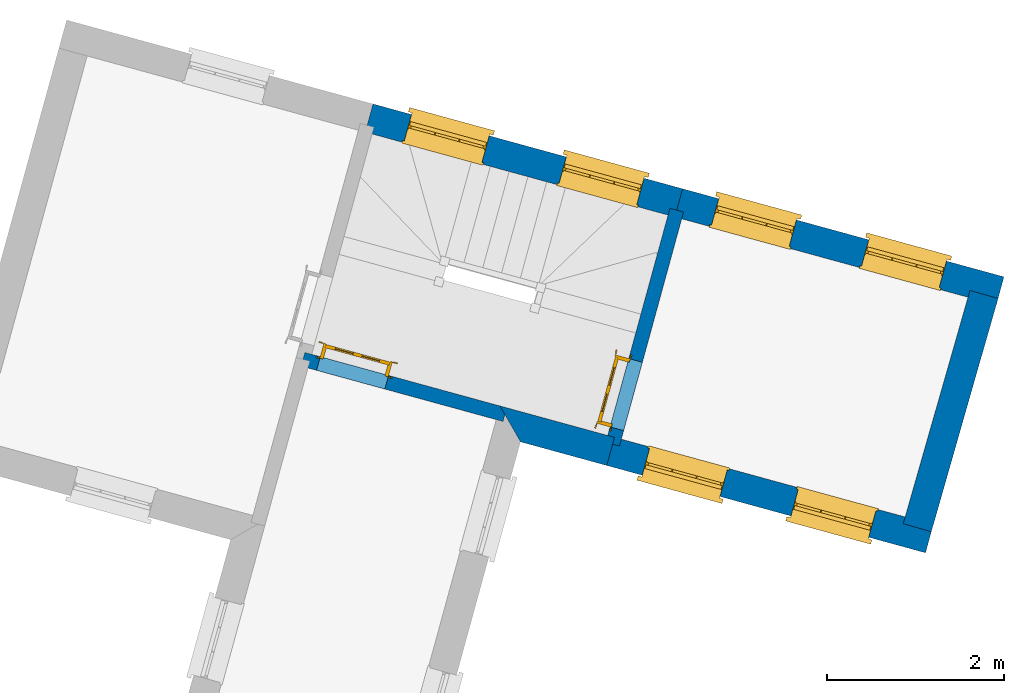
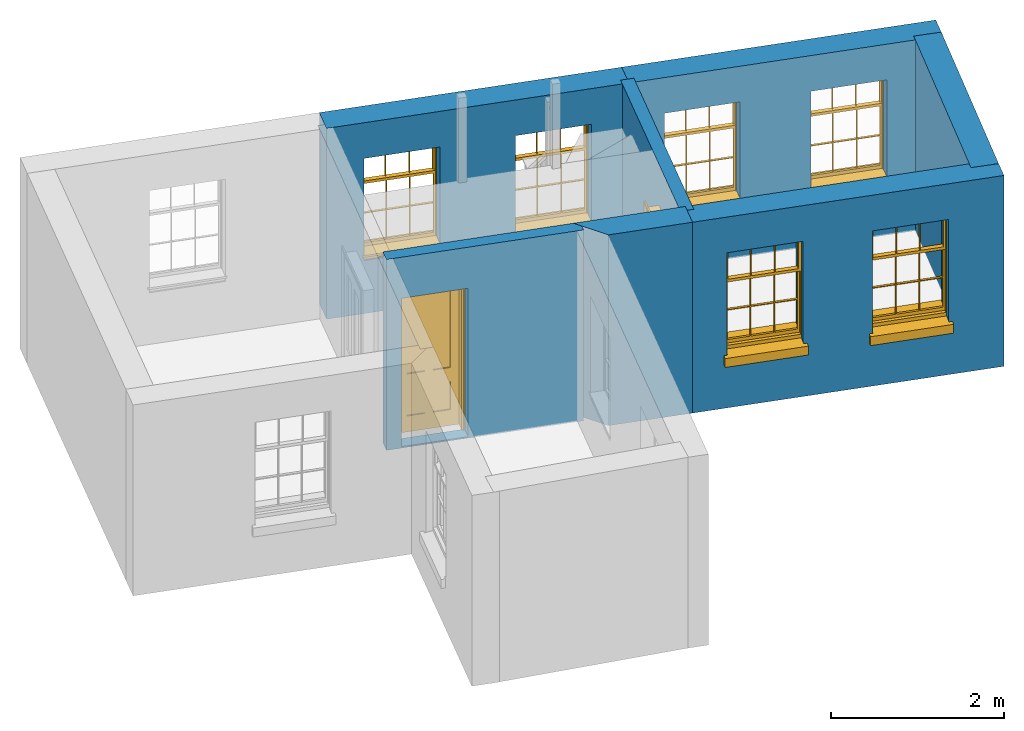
# One storey, part 2 of 4: 7 walls, 6 windows, 2 doors, 8 openings.
"""IFC4 building model written with IfcOpenShell, lengths in metres."""

from ifc_helpers import new_model, si_unit, frame, origin, origin_with_axes, place, context, subcontext, project, spatial, polyline, outline, extrude, faceted_brep, source, transform, mapped, material, layer, layer_set, layer_usage, type_object, type_shapes, element, fill, save


model = new_model("IFC4")

# Units and contexts
model_context = context("Model", 3, world=origin_with_axes())
body_context = subcontext(model_context, "Body", "Model", "MODEL_VIEW")
ifc_project = project(units=[si_unit("PLANEANGLEUNIT", "RADIAN"), si_unit("MASSUNIT", "GRAM", prefix="KILO"), si_unit("FORCEUNIT", "NEWTON", prefix="KILO"), si_unit("LENGTHUNIT", "METRE"), si_unit("AREAUNIT", "SQUARE_METRE"), si_unit("VOLUMEUNIT", "CUBIC_METRE")], contexts=[model_context, model_context])

# Sites, building, storey
site_1_placement = place(None, origin_with_axes())
site_1 = spatial("IfcSite", under=ifc_project, at=site_1_placement, Name="Tamar")
site_2_placement = place(site_1_placement, origin_with_axes())
site_2 = spatial("IfcSite", under=site_1, at=site_2_placement, Name="Site plot-29", CompositionType="ELEMENT")
building_placement = place(None, origin_with_axes())
building = spatial("IfcBuilding", under=site_2, at=building_placement, Name="Building plot-29", CompositionType="ELEMENT")
storey_placement = place(None, frame((0.0, 0.0, 27.85), z_axis=(0.0, 0.0, 1.0), x_axis=(1.0, 0.0, 0.0)))
storey = spatial("IfcBuildingStorey", under=building, at=storey_placement, Name="plot-29 1", CompositionType="ELEMENT", Elevation=27.85)

# Wall
ifc_material_1 = material(Name="Masonry")
ifc_layer_1 = layer(ifc_material_1, 0.33, ventilated=False)
ifc_layer_set_1 = layer_set([ifc_layer_1], Name="exterior_0.08_0.25")
ifc_layer_usage_1 = layer_usage(ifc_layer_set_1, "AXIS2", "POSITIVE", -0.25)
wall_type_1 = type_object("IfcWallType", Name="exterior_0.08_0.25", PredefinedType="SOLIDWALL", material=ifc_layer_set_1)
wall_1_placement = place(storey_placement, frame((275.841180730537, 261.90733006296, 0.0), z_axis=(0.0, 0.0, 1.0), x_axis=(0.964452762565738, -0.264255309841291, 0.0)))
element("IfcWall", 1, at=wall_1_placement, inside=storey, type_object=wall_type_1, material=ifc_layer_usage_1, Name="exterior", context=body_context, shape_type="SweptSolid", body=[
    extrude(outline(polyline([(-0.0799999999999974, 0.0800000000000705), (0.249999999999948, -0.249999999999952), (1.26011429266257, -0.250000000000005), (1.26011429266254, 0.0800000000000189), (-0.0799999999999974, 0.0800000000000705)])), origin_with_axes(), (0.0, 0.0, 1.0), 2.7),
])

# Wall, openings, windows
wall_2_placement = place(storey_placement, frame((277.056501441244, 261.574338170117, 0.0), z_axis=(0.0, 0.0, 1.0), x_axis=(0.964452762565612, -0.264255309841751, 0.0)))
wall_2 = element("IfcWall", 2, at=wall_2_placement, inside=storey, type_object=wall_type_1, material=ifc_layer_usage_1, Name="exterior", context=body_context, shape_type="SweptSolid", body=[
    extrude(outline(polyline([(-5.64477217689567e-14, 0.0800000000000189), (1.32070615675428e-13, -0.250000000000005), (3.7310994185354, -0.249999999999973), (3.7310994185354, 0.0799999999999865), (-5.64477217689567e-14, 0.0800000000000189)])), origin_with_axes(), (0.0, 0.0, 1.0), 2.7),
])
opening_1_placement = place(wall_2_placement, frame((0.415274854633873, 0.0, 0.75)))
opening_1 = element("IfcOpeningElement", 3, at=opening_1_placement, cuts=wall_2, Name="My Opening", ObjectType="Opening", context=body_context, shape_type="SweptSolid", body=[
    extrude(outline(polyline([(0.0, -0.269999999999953), (0.910000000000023, -0.269999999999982), (0.910000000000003, 1.1), (-1.9817480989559e-14, 1.10000000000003), (0.0, -0.269999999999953)])), origin_with_axes(), (0.0, 0.0, 1.0), 1.445),
])
opening_2_placement = place(wall_2_placement, frame((2.15582456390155, 0.0, 0.75)))
opening_2 = element("IfcOpeningElement", 4, at=opening_2_placement, cuts=wall_2, Name="My Opening", ObjectType="Opening", context=body_context, shape_type="SweptSolid", body=[
    extrude(outline(polyline([(0.0, -0.26999999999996), (0.910000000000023, -0.269999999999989), (0.910000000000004, 1.1), (-1.95399252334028e-14, 1.10000000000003), (0.0, -0.26999999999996)])), origin_with_axes(), (0.0, 0.0, 1.0), 1.445),
])
window_type = type_object("IfcWindowType", Name="sash_shorter", PartitioningType="DOUBLE_PANEL_HORIZONTAL", PredefinedType="NOTDEFINED")
shared_shape_1 = source(origin(), body_context, "Body", "Brep", [
    faceted_brep([(0.876875, 0.145, 0.999097), (0.876875, 0.145, 1.411875), (0.9, 0.145, 1.435), (0.033125, 0.145, 1.411875), (0.033125, 0.145, 0.999097), (0.01, 0.145, 1.435), (0.033125, 0.115, 1.411875), (0.01, 0.115, 1.435), (0.033125, 0.115, 0.999097), (0.876875, 0.115, 1.411875), (0.876875, 0.115, 0.999097), (0.9, 0.115, 1.435), (0.033125, 0.145, 0.960972), (0.01, 0.145, 0.960972), (0.033125, 0.145, 0.548195), (0.876875, 0.145, 0.960972), (0.876875, 0.145, 0.548195), (0.9, 0.145, 0.960972), (0.876875, 0.145, 0.538195), (0.876875, 0.145, 0.125417), (0.9, 0.145, 0.077167), (0.033125, 0.145, 0.125417), (0.033125, 0.145, 0.538195), (0.01, 0.145, 0.077167), (0.9, 0.115, 0.960972), (0.01, 0.115, 0.960972), (-0.0425, 0.0, 0.01), (-0.0425, -0.05, 0.001667), (0.0, 0.0, 0.01), (0.9525, 0.0, 0.01), (0.91, 0.0, 0.01), (0.9525, -0.05, 0.001667), (-0.02, 0.33, 0.077167), (0.0, 0.33, 0.077167), (-0.02, 0.36, 0.077167), (0.0, 0.19, 0.077167), (0.01, 0.19, 0.077167), (0.91, 0.19, 0.077167), (0.91, 0.33, 0.077167), (0.9, 0.19, 0.077167), (0.93, 0.33, 0.077167), (0.93, 0.36, 0.077167), (0.01, 0.145, 0.999097), (0.01, 0.175, 0.999097), (0.9, 0.145, 0.999097), (0.9, 0.175, 0.999097), (0.876875, 0.175, 0.125417), (0.876875, 0.175, 0.538195), (0.9, 0.175, 0.077167), (0.876875, 0.175, 0.548195), (0.876875, 0.175, 0.960972), (0.033125, 0.175, 0.125417), (0.01, 0.175, 0.077167), (0.033125, 0.175, 0.538195), (0.033125, 0.175, 0.960972), (0.033125, 0.175, 0.548195), (-0.02, 0.33, 0.052167), (-0.02, 0.36, 0.052167), (0.93, 0.36, 0.052167), (0.93, 0.33, 0.052167), (0.91, 0.33, 0.052167), (0.0, 0.33, 0.052167), (0.91, 0.1, 0.026667), (0.0, 0.1, 0.026667), (-0.0425, -0.05, -0.123333), (0.9525, -0.05, -0.123333), (-0.0425, 0.0, -0.123333), (0.9525, 0.0, -0.123333), (0.01, 0.19, 1.435), (0.9, 0.19, 1.435), (0.0, 0.19, 1.445), (0.91, 0.19, 1.445), (0.01, 0.1, 0.077167), (0.9, 0.1, 0.077167), (0.592292, 0.145, 0.125417), (0.592292, 0.175, 0.125417), (0.317708, 0.175, 0.125417), (0.317708, 0.145, 0.125417), (0.592292, 0.145, 0.548195), (0.317708, 0.145, 0.548195), (0.317708, 0.145, 0.538195), (0.592292, 0.145, 0.538195), (0.592292, 0.175, 0.548195), (0.317708, 0.175, 0.548195), (0.602292, 0.175, 0.548195), (0.602292, 0.145, 0.548195), (0.317708, 0.175, 0.538195), (0.307708, 0.175, 0.125417), (0.307708, 0.175, 0.538195), (0.602292, 0.175, 0.538195), (0.602292, 0.175, 0.125417), (0.592292, 0.175, 0.538195), (0.307708, 0.175, 0.548195), (0.317708, 0.175, 0.960972), (0.307708, 0.175, 0.960972), (0.602292, 0.175, 0.960972), (0.592292, 0.175, 0.960972), (0.307708, 0.145, 0.538195), (0.307708, 0.145, 0.125417), (0.307708, 0.145, 0.548195), (0.307708, 0.145, 0.960972), (0.592292, 0.145, 0.960972), (0.317708, 0.145, 0.960972), (0.602292, 0.145, 0.960972), (0.602292, 0.145, 0.538195), (0.602292, 0.145, 0.125417), (0.317708, 0.115, 1.411875), (0.307708, 0.115, 1.411875), (0.307708, 0.115, 0.999097), (0.317708, 0.115, 0.999097), (0.602292, 0.115, 1.411875), (0.592292, 0.115, 1.411875), (0.592292, 0.115, 0.999097), (0.602292, 0.115, 0.999097), (0.317708, 0.145, 0.999097), (0.307708, 0.145, 0.999097), (0.307708, 0.145, 1.411875), (0.317708, 0.145, 1.411875), (0.602292, 0.145, 0.999097), (0.592292, 0.145, 0.999097), (0.592292, 0.145, 1.411875), (0.602292, 0.145, 1.411875), (0.91, 0.1, 1.445), (0.9, 0.1, 1.435), (0.01, 0.1, 1.435), (0.0, 0.1, 1.445), (0.91, 0.0, 0.0), (0.0, 0.0, 0.0), (0.91, 0.33, 0.0), (0.0, 0.33, 0.0)], [[[0, 1, 2]], [[3, 4, 5]], [[6, 7, 8]], [[9, 10, 11]], [[12, 13, 14]], [[15, 16, 17]], [[18, 19, 20]], [[21, 22, 23]], [[24, 15, 17]], [[13, 12, 25]], [[26, 27, 28]], [[29, 30, 31]], [[32, 33, 34]], [[35, 36, 33]], [[37, 38, 39]], [[40, 41, 38]], [[42, 4, 43]], [[44, 45, 0]], [[46, 47, 48]], [[49, 50, 45]], [[51, 52, 53]], [[54, 55, 43]], [[38, 33, 36, 39]], [[41, 34, 33, 38]], [[56, 32, 34, 57]], [[57, 34, 41, 58]], [[58, 41, 40, 59]], [[57, 58, 60, 61]], [[52, 48, 39, 36]], [[62, 63, 28, 30]], [[27, 31, 30, 28]], [[27, 64, 65, 31]], [[66, 67, 65, 64]], [[2, 5, 68, 69]], [[68, 70, 71, 69]], [[20, 23, 72, 73]], [[73, 72, 63, 62]], [[74, 75, 76, 77]], [[78, 79, 80, 81]], [[78, 82, 83, 79]], [[16, 49, 84, 85]], [[86, 76, 87, 88]], [[89, 90, 75, 91]], [[92, 88, 53, 55]], [[82, 91, 86, 83]], [[93, 83, 92, 94]], [[95, 84, 82, 96]], [[89, 84, 49, 47]], [[97, 88, 87, 98]], [[22, 53, 88, 97]], [[81, 91, 75, 74]], [[80, 86, 91, 81]], [[77, 76, 86, 80]], [[99, 92, 55, 14]], [[100, 94, 92, 99]], [[101, 96, 82, 78]], [[79, 83, 93, 102]], [[85, 84, 95, 103]], [[104, 89, 47, 18]], [[105, 90, 89, 104]], [[104, 18, 16, 85]], [[80, 97, 98, 77]], [[104, 81, 74, 105]], [[103, 101, 78, 85]], [[99, 14, 22, 97]], [[102, 100, 99, 79]], [[106, 107, 108, 109]], [[110, 111, 112, 113]], [[114, 115, 116, 117]], [[118, 119, 120, 121]], [[107, 116, 115, 108]], [[111, 120, 119, 112]], [[109, 114, 117, 106]], [[113, 118, 121, 110]], [[85, 78, 81, 104]], [[84, 89, 91, 82]], [[83, 86, 88, 92]], [[79, 99, 97, 80]], [[109, 112, 119, 114]], [[102, 93, 96, 101]], [[106, 117, 120, 111]], [[98, 87, 51, 21]], [[6, 3, 116, 107]], [[110, 121, 1, 9]], [[19, 46, 90, 105]], [[26, 66, 64, 27]], [[29, 31, 65, 67]], [[25, 24, 112, 109]], [[11, 7, 106, 111]], [[75, 48, 52, 76]], [[43, 45, 96, 93]], [[45, 43, 114, 119]], [[5, 2, 120, 117]], [[24, 25, 102, 101]], [[42, 5, 4]], [[2, 44, 0]], [[49, 45, 48, 47]], [[52, 43, 55, 53]], [[14, 13, 23, 22]], [[20, 17, 16, 18]], [[24, 11, 10]], [[25, 8, 7]], [[8, 4, 3, 6]], [[9, 1, 0, 10]], [[15, 50, 49, 16]], [[18, 47, 46, 19]], [[21, 51, 53, 22]], [[14, 55, 54, 12]], [[44, 2, 69, 45]], [[68, 5, 42, 43]], [[36, 35, 70, 68]], [[39, 69, 71, 37]], [[62, 122, 123, 73]], [[63, 72, 124, 125]], [[8, 108, 115, 4]], [[113, 10, 0, 118]], [[94, 100, 12, 54]], [[17, 20, 73, 24]], [[72, 23, 13, 25]], [[52, 36, 68, 43]], [[69, 39, 48, 45]], [[11, 24, 73, 123]], [[7, 124, 72, 25]], [[23, 77, 98]], [[98, 21, 23]], [[105, 74, 20]], [[20, 19, 105]], [[20, 74, 77, 23]], [[113, 112, 24]], [[24, 10, 113]], [[25, 109, 108]], [[108, 8, 25]], [[110, 9, 11]], [[11, 111, 110]], [[7, 6, 107]], [[107, 106, 7]], [[5, 117, 116]], [[116, 3, 5]], [[121, 120, 2]], [[2, 1, 121]], [[11, 123, 124, 7]], [[122, 125, 124, 123]], [[43, 93, 94]], [[94, 54, 43]], [[96, 45, 95]], [[50, 95, 45]], [[15, 103, 95, 50]], [[48, 75, 90]], [[90, 46, 48]], [[87, 76, 52]], [[52, 51, 87]], [[103, 15, 24]], [[24, 101, 103]], [[100, 102, 25]], [[25, 12, 100]], [[115, 114, 43]], [[43, 4, 115]], [[118, 0, 45]], [[45, 119, 118]], [[71, 70, 125, 122]], [[70, 35, 63, 125]], [[122, 62, 37, 71]], [[126, 67, 66, 127]], [[60, 58, 59]], [[38, 60, 59, 40]], [[61, 56, 57]], [[32, 56, 61, 33]], [[61, 60, 128, 129]], [[62, 60, 38, 37]], [[126, 128, 60, 62]], [[33, 61, 63, 35]], [[61, 129, 127, 63]], [[128, 126, 127, 129]], [[28, 127, 66, 26]], [[63, 127, 28]], [[29, 67, 126, 30]], [[30, 126, 62]]]),
])
type_shapes(window_type, [shared_shape_1])
window_1_placement = place(storey_placement, frame((277.385665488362, 261.204197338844, 0.75), z_axis=(0.0, 0.0, 1.0), x_axis=(0.877652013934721, -0.240472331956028, 0.0)))
window_1 = element("IfcWindow", 5, at=window_1_placement, inside=storey, type_object=window_type, Name="toilet outside window", OverallHeight=1.445, OverallWidth=0.91, context=body_context, shape_type="MappedRepresentation", body=[
    mapped(shared_shape_1, transform((0.0, 0.0, 0.0), scale=1.0)),
])
fill(opening_1, window_1)
window_2_placement = place(storey_placement, frame((279.064343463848, 260.744247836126, 0.75), z_axis=(0.0, 0.0, 1.0), x_axis=(0.877652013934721, -0.240472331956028, 0.0)))
window_2 = element("IfcWindow", 6, at=window_2_placement, inside=storey, type_object=window_type, Name="toilet outside window", OverallHeight=1.445, OverallWidth=0.91, context=body_context, shape_type="MappedRepresentation", body=[
    mapped(shared_shape_1, transform((0.0, 0.0, 0.0), scale=1.0)),
])
fill(opening_2, window_2)

wall_3_placement = place(storey_placement, frame((281.167421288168, 263.288028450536, 0.0), z_axis=(0.0, 0.0, 1.0), x_axis=(-0.964452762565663, 0.264255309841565, 0.0)))
wall_3 = element("IfcWall", 7, at=wall_3_placement, inside=storey, type_object=wall_type_1, material=ifc_layer_usage_1, Name="exterior", context=body_context, shape_type="SweptSolid", body=[
    extrude(outline(polyline([(-0.249999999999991, 0.0799999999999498), (-0.249999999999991, -0.250000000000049), (3.51193624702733, -0.25000000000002), (3.51193624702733, 0.0799999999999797), (-0.249999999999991, 0.0799999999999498)])), origin_with_axes(), (0.0, 0.0, 1.0), 2.7),
])
opening_3_placement = place(wall_3_placement, frame((0.422984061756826, 0.0, 0.75)))
opening_3 = element("IfcOpeningElement", 8, at=opening_3_placement, cuts=wall_3, Name="My Opening", ObjectType="Opening", context=body_context, shape_type="SweptSolid", body=[
    extrude(outline(polyline([(0.0, -0.270000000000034), (0.909999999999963, -0.270000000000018), (0.910000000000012, 1.10000000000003), (4.95714580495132e-14, 1.10000000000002), (0.0, -0.270000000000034)])), origin_with_axes(), (0.0, 0.0, 1.0), 1.445),
])
opening_4_placement = place(wall_3_placement, frame((2.17895218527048, 0.0, 0.75)))
opening_4 = element("IfcOpeningElement", 9, at=opening_4_placement, cuts=wall_3, Name="My Opening", ObjectType="Opening", context=body_context, shape_type="SweptSolid", body=[
    extrude(outline(polyline([(0.0, -0.270000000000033), (0.909999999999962, -0.270000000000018), (0.910000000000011, 1.10000000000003), (4.88498130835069e-14, 1.10000000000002), (0.0, -0.270000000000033)])), origin_with_axes(), (0.0, 0.0, 1.0), 1.445),
])
window_3_placement = place(storey_placement, frame((280.830822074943, 263.660206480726, 0.75), z_axis=(0.0, 0.0, 1.0), x_axis=(-0.877652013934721, 0.2404723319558, 0.0)))
window_3 = element("IfcWindow", 10, at=window_3_placement, inside=storey, type_object=window_type, Name="toilet outside window", OverallHeight=1.445, OverallWidth=0.91, context=body_context, shape_type="MappedRepresentation", body=[
    mapped(shared_shape_1, transform((0.0, 0.0, 0.0), scale=1.0)),
])
fill(opening_3, window_3)
window_4_placement = place(storey_placement, frame((279.137273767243, 264.124230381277, 0.75), z_axis=(0.0, 0.0, 1.0), x_axis=(-0.877652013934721, 0.2404723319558, 0.0)))
window_4 = element("IfcWindow", 11, at=window_4_placement, inside=storey, type_object=window_type, Name="toilet outside window", OverallHeight=1.445, OverallWidth=0.91, context=body_context, shape_type="MappedRepresentation", body=[
    mapped(shared_shape_1, transform((0.0, 0.0, 0.0), scale=1.0)),
])
fill(opening_4, window_4)

wall_4_placement = place(storey_placement, frame((277.780324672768, 264.216076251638, 0.0), z_axis=(0.0, 0.0, 1.0), x_axis=(-0.964452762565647, 0.264255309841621, 0.0)))
wall_4 = element("IfcWall", 12, at=wall_4_placement, inside=storey, type_object=wall_type_1, material=ifc_layer_usage_1, Name="exterior", context=body_context, shape_type="SweptSolid", body=[
    extrude(outline(polyline([(2.41278244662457e-14, 0.0799999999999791), (4.37025841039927e-14, -0.25000000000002), (3.62381554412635, -0.249999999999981), (3.6238155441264, 0.0799999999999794), (2.41278244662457e-14, 0.0799999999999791)])), origin_with_axes(), (0.0, 0.0, 1.0), 2.7),
])
opening_5_placement = place(wall_4_placement, frame((0.45095388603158, 0.0, 0.75)))
opening_5 = element("IfcOpeningElement", 13, at=opening_5_placement, cuts=wall_4, Name="My Opening", ObjectType="Opening", context=body_context, shape_type="SweptSolid", body=[
    extrude(outline(polyline([(0.0, -0.270000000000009), (0.909999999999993, -0.27000000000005), (0.910000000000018, 1.10000000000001), (2.51465515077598e-14, 1.10000000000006), (0.0, -0.270000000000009)])), origin_with_axes(), (0.0, 0.0, 1.0), 1.445),
])
opening_6_placement = place(wall_4_placement, frame((2.26286165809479, 0.0, 0.75)))
opening_6 = element("IfcOpeningElement", 14, at=opening_6_placement, cuts=wall_4, Name="My Opening", ObjectType="Opening", context=body_context, shape_type="SweptSolid", body=[
    extrude(outline(polyline([(0.0, -0.270000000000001), (0.909999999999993, -0.270000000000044), (0.910000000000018, 1.10000000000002), (2.48689957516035e-14, 1.10000000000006), (0.0, -0.270000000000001)])), origin_with_axes(), (0.0, 0.0, 1.0), 1.445),
])
window_5_placement = place(storey_placement, frame((277.416749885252, 264.595645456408, 0.75), z_axis=(0.0, 0.0, 1.0), x_axis=(-0.877652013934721, 0.240472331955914, 0.0)))
window_5 = element("IfcWindow", 15, at=window_5_placement, inside=storey, type_object=window_type, Name="circulation outside window", OverallHeight=1.445, OverallWidth=0.91, context=body_context, shape_type="MappedRepresentation", body=[
    mapped(shared_shape_1, transform((0.0, 0.0, 0.0), scale=1.0)),
])
fill(opening_5, window_5)
window_6_placement = place(storey_placement, frame((275.669250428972, 265.074451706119, 0.75), z_axis=(0.0, 0.0, 1.0), x_axis=(-0.877652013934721, 0.240472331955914, 0.0)))
window_6 = element("IfcWindow", 16, at=window_6_placement, inside=storey, type_object=window_type, Name="circulation outside window", OverallHeight=1.445, OverallWidth=0.91, context=body_context, shape_type="MappedRepresentation", body=[
    mapped(shared_shape_1, transform((0.0, 0.0, 0.0), scale=1.0)),
])
fill(opening_6, window_6)

# Wall
ifc_material_2 = material(Name="Masonry")
ifc_layer_2 = layer(ifc_material_2, 0.33, ventilated=False)
ifc_layer_set_2 = layer_set([ifc_layer_2], Name="party_0.08_0.25")
ifc_layer_usage_2 = layer_usage(ifc_layer_set_2, "AXIS2", "POSITIVE", -0.25)
wall_type_2 = type_object("IfcWallType", Name="party_0.08_0.25", PredefinedType="SOLIDWALL", material=ifc_layer_set_2)
wall_5_placement = place(storey_placement, frame((280.413857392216, 260.654439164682, 0.0), z_axis=(0.0, 0.0, 1.0), x_axis=(0.275095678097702, 0.961416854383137, 0.0)))
element("IfcWall", 17, at=wall_5_placement, inside=storey, type_object=wall_type_2, material=ifc_layer_usage_2, Name="party", context=body_context, shape_type="SweptSolid", body=[
    extrude(outline(polyline([(7.11032594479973e-15, 0.080000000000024), (1.58359861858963e-14, -0.249999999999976), (2.73927929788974, -0.249999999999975), (2.73927929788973, 0.0800000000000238), (7.11032594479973e-15, 0.080000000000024)])), origin_with_axes(), (0.0, 0.0, 1.0), 2.7),
])

# Wall, opening, door
ifc_material_3 = material(Name="Masonry")
ifc_layer_3 = layer(ifc_material_3, 0.16, ventilated=False)
ifc_layer_set_3 = layer_set([ifc_layer_3], Name="interior_0.08_0.08")
ifc_layer_usage_3 = layer_usage(ifc_layer_set_3, "AXIS2", "POSITIVE", -0.08)
wall_type_3 = type_object("IfcWallType", Name="interior_0.08_0.08", PredefinedType="SOLIDWALL", material=ifc_layer_set_3)
wall_6_placement = place(storey_placement, frame((273.561502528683, 262.531950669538, 0.0), z_axis=(0.0, 0.0, 1.0), x_axis=(0.964452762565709, -0.264255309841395, 0.0)))
wall_6 = element("IfcWall", 18, at=wall_6_placement, inside=storey, type_object=wall_type_3, material=ifc_layer_usage_3, Name="interior", context=body_context, shape_type="SweptSolid", body=[
    extrude(outline(polyline([(-2.69246710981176e-14, 0.0800000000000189), (2.69148739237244e-14, -0.0800000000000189), (2.36370125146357, -0.0800000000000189), (2.36370125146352, 0.0800000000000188), (-2.69246710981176e-14, 0.0800000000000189)])), origin_with_axes(), (0.0, 0.0, 1.0), 2.7),
])
opening_7_placement = place(wall_6_placement, frame((0.180000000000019, 0.0, 0.0199999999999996)))
opening_7 = element("IfcOpeningElement", 19, at=opening_7_placement, cuts=wall_6, Name="My Opening", ObjectType="Opening", context=body_context, shape_type="SweptSolid", body=[
    extrude(outline(polyline([(0.0, -0.100000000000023), (0.80000000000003, -0.100000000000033), (0.79999999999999, 1.1), (-3.95239396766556e-14, 1.10000000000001), (0.0, -0.100000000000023)])), origin_with_axes(), (0.0, 0.0, 1.0), 2.1),
])
door_type = type_object("IfcDoorType", Name="door_inside", OperationType="SINGLE_SWING_LEFT", PredefinedType="NOTDEFINED")
shared_shape_2 = source(origin(), body_context, "Body", "Brep", [
    faceted_brep([(0.773, 0.33, 1.895), (0.66, 0.33, 1.895), (0.66, 0.33, 2.073), (0.773, 0.33, 2.073), (0.773, 0.33, 0.82), (0.66, 0.33, 0.82), (0.45, 0.33, 1.895), (0.45, 0.33, 2.073), (0.773, 0.33, 0.62), (0.66, 0.33, 0.62), (0.66, 0.315, 0.82), (0.66, 0.315, 1.895), (0.45, 0.315, 1.895), (0.35, 0.33, 1.895), (0.35, 0.33, 2.073), (0.773, 0.33, 0.225), (0.66, 0.33, 0.225), (0.45, 0.33, 0.62), (0.45, 0.33, 0.82), (0.45, 0.315, 0.82), (0.35, 0.33, 0.82), (0.14, 0.33, 2.073), (0.14, 0.33, 1.895), (0.773, 0.33, 0.0), (0.66, 0.33, 0.0), (0.66, 0.315, 0.225), (0.66, 0.315, 0.62), (0.45, 0.315, 0.62), (0.35, 0.33, 0.62), (0.35, 0.315, 0.82), (0.35, 0.315, 1.895), (0.14, 0.315, 1.895), (0.027, 0.33, 2.073), (0.027, 0.33, 1.895), (0.773, 0.292, 0.0), (0.66, 0.292, 0.0), (0.45, 0.33, 0.0), (0.45, 0.33, 0.225), (0.45, 0.315, 0.225), (0.35, 0.33, 0.225), (0.14, 0.33, 0.82), (0.14, 0.33, 0.62), (0.14, 0.315, 0.82), (0.027, 0.33, 0.82), (0.773, 0.292, 0.225), (0.66, 0.292, 0.225), (0.45, 0.292, 0.0), (0.35, 0.33, 0.0), (0.35, 0.315, 0.225), (0.35, 0.315, 0.62), (0.14, 0.315, 0.62), (0.027, 0.33, 0.62), (0.773, 0.292, 0.62), (0.66, 0.292, 0.62), (0.45, 0.292, 0.225), (0.35, 0.292, 0.0), (0.14, 0.33, 0.225), (0.14, 0.33, 0.0), (0.14, 0.315, 0.225), (0.027, 0.33, 0.225), (0.773, 0.292, 0.82), (0.66, 0.292, 0.82), (0.66, 0.307, 0.62), (0.66, 0.307, 0.225), (0.45, 0.307, 0.225), (0.35, 0.292, 0.225), (0.14, 0.292, 0.0), (0.027, 0.33, 0.0), (0.773, 0.292, 1.895), (0.66, 0.292, 1.895), (0.45, 0.292, 0.62), (0.45, 0.292, 0.82), (0.45, 0.307, 0.62), (0.35, 0.292, 0.62), (0.14, 0.292, 0.225), (0.027, 0.292, 0.0), (0.773, 0.292, 2.073), (0.66, 0.292, 2.073), (0.66, 0.307, 1.895), (0.66, 0.307, 0.82), (0.45, 0.307, 0.82), (0.35, 0.292, 0.82), (0.35, 0.307, 0.62), (0.35, 0.307, 0.225), (0.14, 0.307, 0.225), (0.027, 0.292, 0.225), (0.45, 0.292, 1.895), (0.45, 0.292, 2.073), (0.45, 0.307, 1.895), (0.35, 0.292, 1.895), (0.14, 0.292, 0.82), (0.14, 0.292, 0.62), (0.14, 0.307, 0.62), (0.027, 0.292, 0.62), (0.35, 0.292, 2.073), (0.35, 0.307, 1.895), (0.35, 0.307, 0.82), (0.14, 0.307, 0.82), (0.027, 0.292, 0.82), (0.14, 0.292, 2.073), (0.14, 0.292, 1.895), (0.14, 0.307, 1.895), (0.027, 0.292, 1.895), (0.027, 0.292, 2.073), (0.02, 0.335, 0.0), (0.005, 0.34, 0.0), (0.005, 0.34, 2.095), (0.02, 0.335, 2.08), (0.02, 0.33, 0.0), (0.0, 0.335, 0.0), (0.0, 0.335, 2.1), (0.795, 0.34, 2.095), (0.78, 0.335, 2.08), (0.02, 0.33, 2.08), (0.0, 0.33, 0.0), (-0.032, 0.345, 0.0), (-0.032, 0.345, 2.132), (0.8, 0.335, 2.1), (0.795, 0.34, 0.0), (0.78, 0.335, 0.0), (0.78, 0.33, 2.08), (0.04, 0.29, 0.0), (0.025, 0.29, 0.0), (0.025, 0.29, 2.075), (0.04, 0.29, 2.06), (-0.04, 0.34, 0.0), (-0.04, 0.34, 2.14), (0.832, 0.345, 2.132), (0.8, 0.335, 0.0), (0.78, 0.33, 0.0), (0.8, 0.33, 0.0), (0.86, 0.33, 0.0), (0.86, 0.33, 2.16), (0.8, 0.33, 2.1), (-0.06, 0.33, 2.16), (0.0, 0.33, 2.1), (-0.06, 0.33, 0.0), (-0.04, 0.345, 0.0), (-0.04, 0.345, 2.14), (0.84, 0.34, 2.14), (0.832, 0.345, 0.0), (0.84, 0.34, 0.0), (0.86, 0.345, 0.0), (0.86, 0.345, 2.16), (-0.06, 0.345, 2.16), (-0.06, 0.345, 0.0), (0.84, 0.345, 0.0), (0.84, 0.345, 2.14), (-0.025, 0.155, 0.0), (-0.025, 0.16, 0.0), (-0.025, 0.16, 2.125), (-0.025, 0.155, 2.125), (-0.017, 0.155, 0.0), (-0.017, 0.155, 2.117), (0.825, 0.16, 2.125), (0.825, 0.155, 2.125), (0.825, 0.155, 0.0), (0.845, 0.155, 0.0), (-0.045, 0.155, 2.145), (-0.045, 0.155, 0.0), (0.845, 0.155, 2.145), (0.015, 0.165, 0.0), (0.015, 0.165, 2.085), (0.817, 0.155, 2.117), (0.825, 0.16, 0.0), (0.845, 0.17, 0.0), (0.845, 0.17, 2.145), (-0.045, 0.17, 2.145), (-0.045, 0.17, 0.0), (0.02, 0.16, 0.0), (0.02, 0.16, 2.08), (0.785, 0.165, 2.085), (0.817, 0.155, 0.0), (0.8, 0.17, 0.0), (0.8, 0.17, 2.1), (0.0, 0.17, 2.1), (0.0, 0.17, 0.0), (0.035, 0.165, 0.0), (0.035, 0.165, 2.065), (0.78, 0.16, 2.08), (0.785, 0.165, 0.0), (0.775, 0.29, 2.075), (0.76, 0.29, 2.06), (0.035, 0.17, 2.065), (0.035, 0.17, 0.0), (0.765, 0.165, 2.065), (0.78, 0.16, 0.0), (0.765, 0.17, 0.0), (0.765, 0.17, 2.065), (0.765, 0.165, 0.0), (0.04, 0.17, 2.06), (0.04, 0.17, 0.0), (0.76, 0.17, 2.06), (0.76, 0.17, 0.0), (0.76, 0.29, 0.0), (0.775, 0.29, 0.0), (0.025, 0.33, 0.0), (0.025, 0.33, 2.075), (0.775, 0.33, 0.0), (0.775, 0.33, 2.075)], [[[0, 1, 2, 3]], [[1, 0, 4, 5]], [[1, 6, 7, 2]], [[8, 9, 5, 4]], [[1, 5, 10, 11]], [[6, 1, 11, 12]], [[6, 13, 14, 7]], [[15, 16, 9, 8]], [[9, 17, 18, 5]], [[5, 18, 19, 10]], [[10, 19, 12, 11]], [[18, 6, 12, 19]], [[18, 20, 13, 6]], [[21, 14, 13, 22]], [[23, 24, 16, 15]], [[9, 16, 25, 26]], [[17, 9, 26, 27]], [[17, 28, 20, 18]], [[13, 20, 29, 30]], [[22, 13, 30, 31]], [[32, 21, 22, 33]], [[34, 35, 24, 23]], [[24, 36, 37, 16]], [[16, 37, 38, 25]], [[25, 38, 27, 26]], [[37, 17, 27, 38]], [[37, 39, 28, 17]], [[40, 20, 28, 41]], [[20, 40, 42, 29]], [[31, 30, 29, 42]], [[40, 22, 31, 42]], [[33, 22, 40, 43]], [[35, 34, 44, 45]], [[35, 46, 36, 24]], [[36, 47, 39, 37]], [[28, 39, 48, 49]], [[41, 28, 49, 50]], [[43, 40, 41, 51]], [[45, 44, 52, 53]], [[46, 35, 45, 54]], [[46, 55, 47, 36]], [[56, 39, 47, 57]], [[39, 56, 58, 48]], [[50, 49, 48, 58]], [[56, 41, 50, 58]], [[51, 41, 56, 59]], [[53, 52, 60, 61]], [[45, 53, 62, 63]], [[54, 45, 63, 64]], [[55, 46, 54, 65]], [[55, 66, 57, 47]], [[59, 56, 57, 67]], [[61, 60, 68, 69]], [[70, 53, 61, 71]], [[53, 70, 72, 62]], [[72, 64, 63, 62]], [[70, 54, 64, 72]], [[65, 54, 70, 73]], [[65, 74, 66, 55]], [[67, 57, 66, 75]], [[69, 68, 76, 77]], [[61, 69, 78, 79]], [[71, 61, 79, 80]], [[73, 70, 71, 81]], [[65, 73, 82, 83]], [[74, 65, 83, 84]], [[74, 85, 75, 66]], [[86, 69, 77, 87]], [[69, 86, 88, 78]], [[88, 80, 79, 78]], [[86, 71, 80, 88]], [[81, 71, 86, 89]], [[73, 81, 90, 91]], [[73, 91, 92, 82]], [[83, 82, 92, 84]], [[91, 74, 84, 92]], [[91, 93, 85, 74]], [[89, 86, 87, 94]], [[81, 89, 95, 96]], [[90, 81, 96, 97]], [[90, 98, 93, 91]], [[94, 99, 100, 89]], [[89, 100, 101, 95]], [[101, 97, 96, 95]], [[100, 90, 97, 101]], [[100, 102, 98, 90]], [[99, 103, 102, 100]], [[32, 103, 99, 21]], [[102, 103, 32, 33]], [[98, 102, 33, 43]], [[21, 99, 94, 14]], [[94, 87, 7, 14]], [[7, 87, 77, 2]], [[76, 3, 2, 77]], [[43, 51, 93, 98]], [[51, 59, 85, 93]], [[67, 75, 85, 59]], [[34, 23, 15, 44]], [[44, 15, 8, 52]], [[52, 8, 4, 60]], [[0, 68, 60, 4]], [[0, 3, 76, 68]], [[104, 105, 106, 107]], [[104, 108, 109, 105]], [[105, 109, 110, 106]], [[107, 106, 111, 112]], [[107, 113, 108, 104]], [[114, 109, 108]], [[109, 115, 116, 110]], [[106, 110, 117, 111]], [[112, 111, 118, 119]], [[113, 107, 112, 120]], [[121, 122, 123, 124]], [[115, 109, 114, 125]], [[115, 125, 126, 116]], [[110, 116, 127, 117]], [[111, 117, 128, 118]], [[118, 128, 129, 119]], [[120, 112, 119, 129]], [[130, 129, 128]], [[130, 131, 132, 133]], [[133, 132, 134, 135]], [[135, 134, 136, 114]], [[136, 125, 114]], [[125, 137, 138, 126]], [[116, 126, 139, 127]], [[117, 127, 140, 128]], [[141, 130, 128, 140]], [[131, 130, 141]], [[131, 142, 143, 132]], [[132, 143, 144, 134]], [[134, 144, 145, 136]], [[137, 125, 136, 145]], [[143, 142, 146]], [[143, 146, 147]], [[137, 145, 144]], [[143, 147, 138]], [[138, 137, 144]], [[143, 138, 144]], [[126, 138, 147, 139]], [[127, 139, 141, 140]], [[142, 131, 141, 146]], [[139, 147, 146, 141]], [[148, 149, 150, 151]], [[149, 152, 153, 150]], [[151, 150, 154, 155]], [[155, 156, 157]], [[158, 159, 148]], [[158, 148, 151]], [[155, 157, 160]], [[158, 151, 155]], [[155, 160, 158]], [[152, 161, 162, 153]], [[150, 153, 163, 154]], [[155, 154, 164, 156]], [[156, 164, 165, 157]], [[157, 165, 166, 160]], [[160, 166, 167, 158]], [[158, 167, 168, 159]], [[161, 169, 170, 162]], [[153, 162, 171, 163]], [[154, 163, 172, 164]], [[165, 164, 173]], [[165, 173, 174, 166]], [[166, 174, 175, 167]], [[167, 175, 176, 168]], [[169, 177, 178, 170]], [[162, 170, 179, 171]], [[163, 171, 180, 172]], [[172, 180, 173, 164]], [[124, 123, 181, 182]], [[183, 178, 177, 184]], [[170, 178, 185, 179]], [[171, 179, 186, 180]], [[187, 173, 180]], [[185, 188, 187, 189]], [[188, 185, 178, 183]], [[179, 185, 189, 186]], [[189, 187, 180, 186]], [[190, 183, 184, 191]], [[192, 188, 183, 190]], [[191, 184, 122, 121]], [[124, 190, 191, 121]], [[193, 187, 188, 192]], [[182, 192, 190, 124]], [[184, 176, 122]], [[194, 195, 187, 193]], [[192, 182, 194, 193]], [[161, 176, 184]], [[114, 108, 122, 176]], [[173, 187, 195]], [[152, 149, 176, 161]], [[169, 161, 184, 177]], [[196, 122, 108]], [[176, 175, 135, 114]], [[173, 195, 129, 130]], [[176, 149, 168]], [[123, 122, 196, 197]], [[196, 108, 113, 197]], [[175, 174, 133, 135]], [[198, 129, 195]], [[133, 174, 173, 130]], [[159, 168, 149, 148]], [[181, 123, 197, 199]], [[197, 113, 120, 199]], [[199, 120, 129, 198]], [[195, 181, 199, 198]], [[195, 194, 182, 181]]]),
])
type_shapes(door_type, [shared_shape_2])
door_1_placement = place(storey_placement, frame((273.708678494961, 262.38793943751, 0.0199999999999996), z_axis=(0.0, 0.0, 1.0), x_axis=(0.771562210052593, -0.211404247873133, 0.0)))
door_1 = element("IfcDoor", 20, at=door_1_placement, inside=storey, type_object=door_type, Name="bedroom inside door", OverallHeight=2.1, OverallWidth=0.8, context=body_context, shape_type="MappedRepresentation", body=[
    mapped(shared_shape_2, transform((0.0, 0.0, 0.0), scale=1.0)),
])
fill(opening_7, door_1)

wall_7_placement = place(storey_placement, frame((277.056501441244, 261.574338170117, 0.0), z_axis=(0.0, 0.0, 1.0), x_axis=(0.264255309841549, 0.964452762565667, 0.0)))
wall_7 = element("IfcWall", 21, at=wall_7_placement, inside=storey, type_object=wall_type_3, material=ifc_layer_usage_3, Name="interior", context=body_context, shape_type="SweptSolid", body=[
    extrude(outline(polyline([(3.0114147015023e-14, 0.0799999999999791), (-3.00865862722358e-14, -0.0799999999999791), (2.73910572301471, -0.0799999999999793), (2.73910572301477, 0.0799999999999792), (3.0114147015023e-14, 0.0799999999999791)])), origin_with_axes(), (0.0, 0.0, 1.0), 2.7),
])
opening_8_placement = place(wall_7_placement, frame((0.17999999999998, 0.0, 0.0199999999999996)))
opening_8 = element("IfcOpeningElement", 22, at=opening_8_placement, cuts=wall_7, Name="My Opening", ObjectType="Opening", context=body_context, shape_type="SweptSolid", body=[
    extrude(outline(polyline([(0.0, -0.100000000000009), (0.800000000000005, -0.100000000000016), (0.800000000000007, 1.10000000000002), (2.38697950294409e-15, 1.10000000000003), (0.0, -0.100000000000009)])), origin_with_axes(), (0.0, 0.0, 1.0), 2.1),
])
door_2_placement = place(storey_placement, frame((277.200512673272, 261.721514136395, 0.0199999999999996), z_axis=(0.0, 0.0, 1.0), x_axis=(0.211404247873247, 0.771562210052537, 0.0)))
door_2 = element("IfcDoor", 23, at=door_2_placement, inside=storey, type_object=door_type, Name="toilet inside door", OverallHeight=2.1, OverallWidth=0.8, context=body_context, shape_type="MappedRepresentation", body=[
    mapped(shared_shape_2, transform((0.0, 0.0, 0.0), scale=1.0)),
])
fill(opening_8, door_2)

save(model, "model.ifc")
